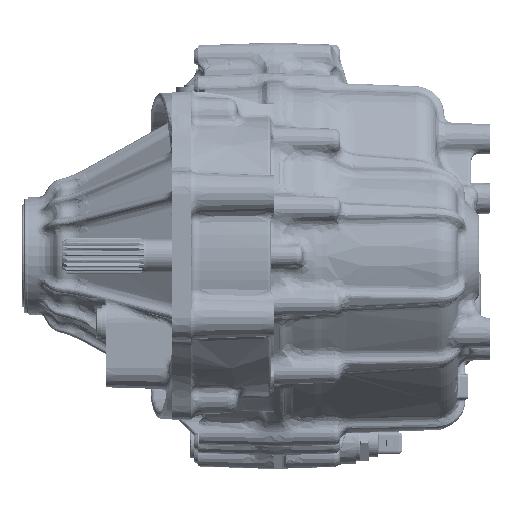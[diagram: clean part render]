
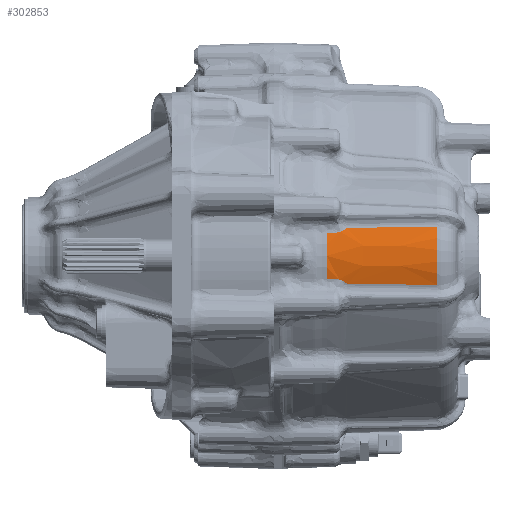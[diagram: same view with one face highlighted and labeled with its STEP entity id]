
A CAD part, left-side view. The second image highlights one B-rep face of the part: STEP entity #302853.
In plain terms, the highlighted conical face has half-angle 2 degrees and reference radius 43.466 mm.
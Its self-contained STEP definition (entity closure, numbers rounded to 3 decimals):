
#275496=CARTESIAN_POINT('Vertex',(-218.864,-72.833,12.165)) ;
#275549=CARTESIAN_POINT('Control Point',(-218.864,-72.833,12.165)) ;
#275550=CARTESIAN_POINT('Control Point',(-218.827,-73.78,12.177)) ;
#275551=CARTESIAN_POINT('Control Point',(-218.789,-74.728,12.19)) ;
#275552=CARTESIAN_POINT('Control Point',(-218.751,-75.675,12.203)) ;
#275553=CARTESIAN_POINT('Control Point',(-218.713,-76.622,12.215)) ;
#275554=CARTESIAN_POINT('Vertex',(-218.713,-76.622,12.215)) ;
#276276=CARTESIAN_POINT('Vertex',(-218.713,-76.622,-12.215)) ;
#276280=CARTESIAN_POINT('Control Point',(-218.713,-76.622,-12.215)) ;
#276281=CARTESIAN_POINT('Control Point',(-218.751,-75.675,-12.203)) ;
#276282=CARTESIAN_POINT('Control Point',(-218.789,-74.728,-12.19)) ;
#276283=CARTESIAN_POINT('Control Point',(-218.827,-73.78,-12.177)) ;
#276284=CARTESIAN_POINT('Control Point',(-218.864,-72.833,-12.165)) ;
#276285=CARTESIAN_POINT('Vertex',(-218.864,-72.833,-12.165)) ;
#302777=CARTESIAN_POINT('Axis2P3D Location',(-175.,-72.833,0.)) ;
#302789=CARTESIAN_POINT('Axis2P3D Location',(-175.,-131.651,0.)) ;
#302795=CARTESIAN_POINT('Control Point',(-218.713,-76.622,12.215)) ;
#302796=CARTESIAN_POINT('Control Point',(-218.643,-78.38,12.239)) ;
#302797=CARTESIAN_POINT('Control Point',(-218.478,-80.121,12.606)) ;
#302798=CARTESIAN_POINT('Control Point',(-218.238,-81.538,13.263)) ;
#302799=CARTESIAN_POINT('Control Point',(-217.956,-82.695,14.016)) ;
#302800=CARTESIAN_POINT('Control Point',(-217.631,-83.621,14.85)) ;
#302801=CARTESIAN_POINT('Vertex',(-217.631,-83.621,14.85)) ;
#302805=CARTESIAN_POINT('Control Point',(-217.631,-83.621,-14.85)) ;
#302806=CARTESIAN_POINT('Control Point',(-217.956,-82.693,-14.015)) ;
#302807=CARTESIAN_POINT('Control Point',(-218.239,-81.531,-13.26)) ;
#302808=CARTESIAN_POINT('Control Point',(-218.479,-80.115,-12.603)) ;
#302809=CARTESIAN_POINT('Control Point',(-218.643,-78.377,-12.239)) ;
#302810=CARTESIAN_POINT('Control Point',(-218.713,-76.622,-12.215)) ;
#302811=CARTESIAN_POINT('Vertex',(-217.631,-83.621,-14.85)) ;
#302815=CARTESIAN_POINT('Control Point',(-217.631,-83.621,-14.85)) ;
#302816=CARTESIAN_POINT('Control Point',(-217.618,-83.914,-14.855)) ;
#302817=CARTESIAN_POINT('Control Point',(-217.606,-84.206,-14.859)) ;
#302818=CARTESIAN_POINT('Vertex',(-217.606,-84.206,-14.859)) ;
#302822=CARTESIAN_POINT('Control Point',(-217.606,-84.206,-14.859)) ;
#302823=CARTESIAN_POINT('Control Point',(-216.937,-100.022,-15.1)) ;
#302824=CARTESIAN_POINT('Control Point',(-216.263,-115.837,-15.335)) ;
#302825=CARTESIAN_POINT('Control Point',(-215.584,-131.651,-15.564)) ;
#302826=CARTESIAN_POINT('Vertex',(-215.584,-131.651,-15.564)) ;
#302829=CARTESIAN_POINT('Axis2P3D Location',(-175.,-131.651,0.)) ;
#302833=CARTESIAN_POINT('Vertex',(-215.581,-131.651,15.573)) ;
#302837=CARTESIAN_POINT('Control Point',(-215.581,-131.651,15.573)) ;
#302838=CARTESIAN_POINT('Control Point',(-216.271,-115.643,15.335)) ;
#302839=CARTESIAN_POINT('Control Point',(-216.954,-99.632,15.094)) ;
#302840=CARTESIAN_POINT('Control Point',(-217.631,-83.621,14.85)) ;
#302778=DIRECTION('Axis2P3D Direction',(0.,-1.,0.)) ;
#302790=DIRECTION('Axis2P3D Direction',(0.,1.,-0.)) ;
#302791=DIRECTION('Axis2P3D XDirection',(0.888,0.,-0.459)) ;
#302830=DIRECTION('Axis2P3D Direction',(0.,1.,0.)) ;
#302779=AXIS2_PLACEMENT_3D('Circle Axis2P3D',#302777,#302778,$) ;
#302792=AXIS2_PLACEMENT_3D('Cone Axis2P3D',#302789,#302790,#302791) ;
#302831=AXIS2_PLACEMENT_3D('Circle Axis2P3D',#302829,#302830,$) ;
#302843=ORIENTED_EDGE('',*,*,#302803,.T.) ;
#302844=ORIENTED_EDGE('',*,*,#275556,.T.) ;
#302845=ORIENTED_EDGE('',*,*,#302781,.T.) ;
#302846=ORIENTED_EDGE('',*,*,#276287,.T.) ;
#302847=ORIENTED_EDGE('',*,*,#302813,.T.) ;
#302848=ORIENTED_EDGE('',*,*,#302820,.F.) ;
#302849=ORIENTED_EDGE('',*,*,#302828,.F.) ;
#302850=ORIENTED_EDGE('',*,*,#302835,.T.) ;
#302851=ORIENTED_EDGE('',*,*,#302841,.F.) ;
#302853=ADVANCED_FACE('PartBody',(#302852),#302793,.T.) ;
#275548=B_SPLINE_CURVE_WITH_KNOTS('',4,(#275549,#275550,#275551,#275552,#275553),.UNSPECIFIED.,.F.,.U.,(5,5),(53.437,57.229),.UNSPECIFIED.) ;
#276279=B_SPLINE_CURVE_WITH_KNOTS('',4,(#276280,#276281,#276282,#276283,#276284),.UNSPECIFIED.,.F.,.U.,(5,5),(94.574,98.366),.UNSPECIFIED.) ;
#302794=B_SPLINE_CURVE_WITH_KNOTS('',5,(#302795,#302796,#302797,#302798,#302799,#302800),.UNSPECIFIED.,.F.,.U.,(6,6),(0.,12.582),.UNSPECIFIED.) ;
#302804=B_SPLINE_CURVE_WITH_KNOTS('',5,(#302805,#302806,#302807,#302808,#302809,#302810),.UNSPECIFIED.,.F.,.U.,(6,6),(0.,12.646),.UNSPECIFIED.) ;
#302814=B_SPLINE_CURVE_WITH_KNOTS('',2,(#302815,#302816,#302817),.UNSPECIFIED.,.F.,.U.,(3,3),(0.,0.83),.UNSPECIFIED.) ;
#302821=B_SPLINE_CURVE_WITH_KNOTS('',3,(#302822,#302823,#302824,#302825),.UNSPECIFIED.,.F.,.U.,(4,4),(0.,67.222),.UNSPECIFIED.) ;
#302836=B_SPLINE_CURVE_WITH_KNOTS('',3,(#302837,#302838,#302839,#302840),.UNSPECIFIED.,.F.,.U.,(4,4),(0.,68.053),.UNSPECIFIED.) ;
#302780=CIRCLE('generated circle',#302779,45.52) ;
#302832=CIRCLE('generated circle',#302831,43.466) ;
#302793=CONICAL_SURFACE('Cone',#302792,43.466,0.035) ;
#275556=EDGE_CURVE('',#275555,#275497,#275548,.F.) ;
#276287=EDGE_CURVE('',#276286,#276277,#276279,.F.) ;
#302781=EDGE_CURVE('',#275497,#276286,#302780,.T.) ;
#302803=EDGE_CURVE('',#302802,#275555,#302794,.F.) ;
#302813=EDGE_CURVE('',#276277,#302812,#302804,.F.) ;
#302820=EDGE_CURVE('',#302819,#302812,#302814,.F.) ;
#302828=EDGE_CURVE('',#302827,#302819,#302821,.F.) ;
#302835=EDGE_CURVE('',#302827,#302834,#302832,.T.) ;
#302841=EDGE_CURVE('',#302802,#302834,#302836,.F.) ;
#302842=EDGE_LOOP('',(#302843,#302844,#302845,#302846,#302847,#302848,#302849,#302850,#302851)) ;
#302852=FACE_OUTER_BOUND('',#302842,.T.) ;
#275497=VERTEX_POINT('',#275496) ;
#275555=VERTEX_POINT('',#275554) ;
#276277=VERTEX_POINT('',#276276) ;
#276286=VERTEX_POINT('',#276285) ;
#302802=VERTEX_POINT('',#302801) ;
#302812=VERTEX_POINT('',#302811) ;
#302819=VERTEX_POINT('',#302818) ;
#302827=VERTEX_POINT('',#302826) ;
#302834=VERTEX_POINT('',#302833) ;
